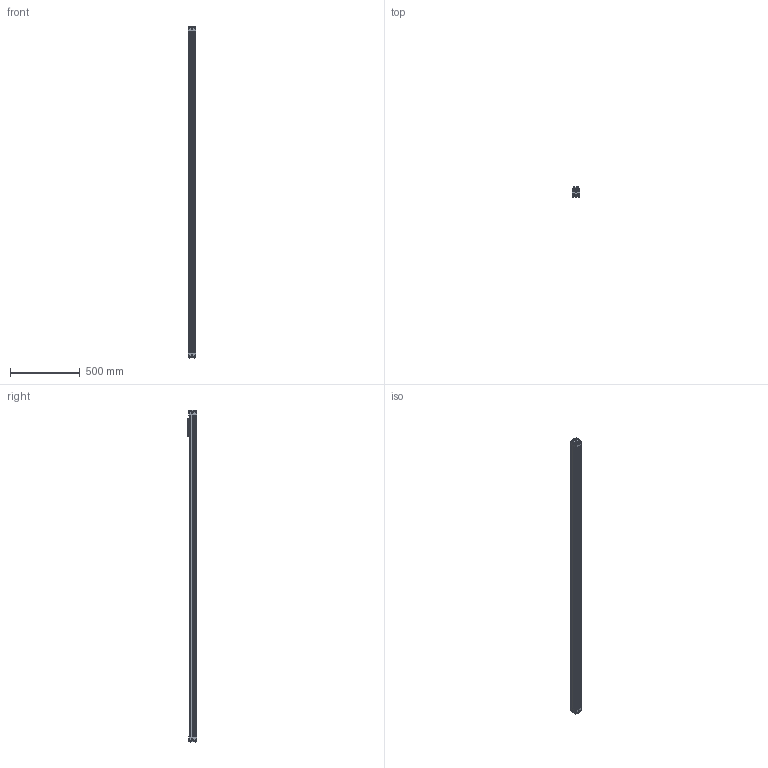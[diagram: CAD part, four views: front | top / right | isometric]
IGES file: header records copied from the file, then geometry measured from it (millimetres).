
Start section: SolidWorks IGES file using analytic representation for surfaces
Global section: file name: N:\Temp\MXP32N_NP_SK84.000_MXP-495381-1.igs; native system: SolidWorks 2024; preprocessor: SolidWorks 2024; author: MB; date: 250819.110959; units: inch
Bounding box: 55.37 x 67.79 x 2382.6 mm (x, y, z)
Surface area: 1031723.7 mm2 (no closed solid volume)
Topology: 0 solids, 0 shells, 906 faces, 9676 edges, 9520 vertices
Faces by surface type: bspline 500, revolution 406
